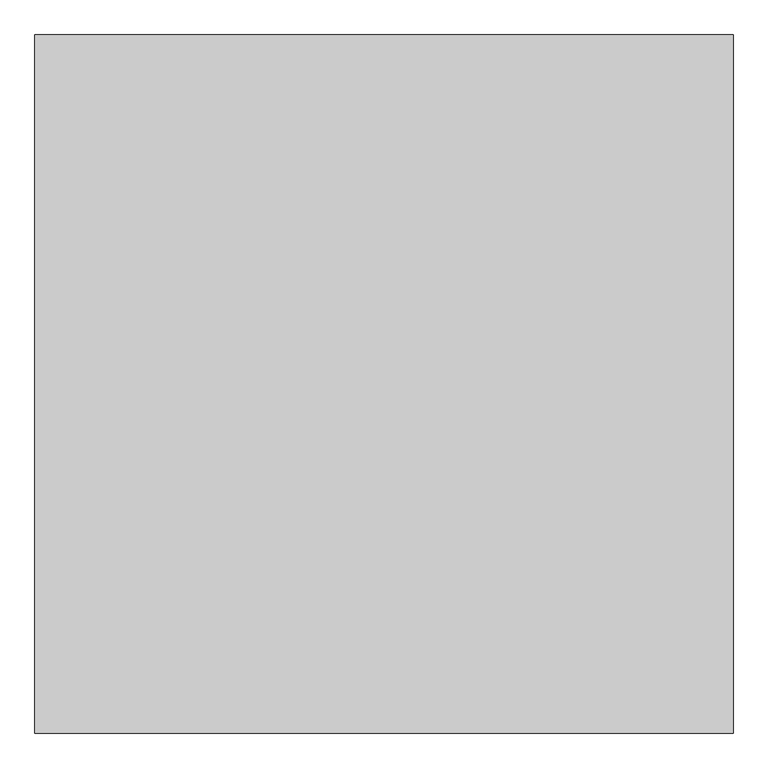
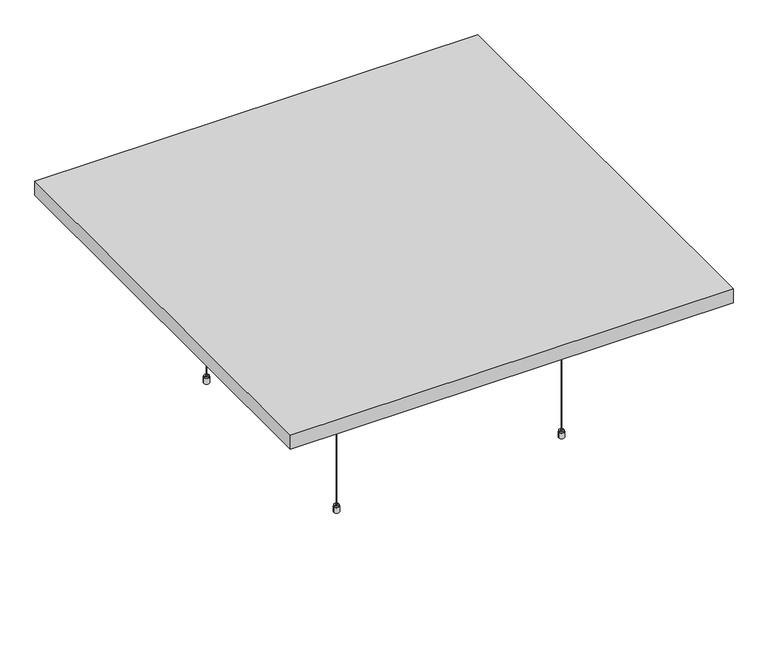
"""IFC4 building model written with IfcOpenShell, lengths in millimetres: proxy geometry, OWA Selecta : Selecta one."""

import ifcopenshell
import ifcopenshell.guid

model = None  # the IFC model being written
_history = None  # IfcOwnerHistory: only IFC2X3 demands one
_inside = {}  # id of a spatial element -> (the spatial element, [elements in it])
_under = {}  # id of a project, library or spatial element -> (it, [spatial elements below it])
_declared = {}  # id of a project -> (the project, [libraries it declares])
_typed = {}  # id of a type object -> (the type object, [elements of that type])
_made_of = {}  # id of a material, layer set ... -> (it, [elements and type objects made of it])


def new_model(schema):
    """Start an empty IFC model of exactly this schema.

    Asked for "IFC4X3", IfcOpenShell would pick the latest addendum, in which some entities
    have other attributes; the version numbers below select the first issue.
    IFC2X3 requires an IfcOwnerHistory on every rooted entity: one is made here for all.
    """
    global model, _history
    if schema == "IFC4X3":
        model = ifcopenshell.file(schema_version=(4, 3, 0, 0))
    else:
        model = ifcopenshell.file(schema=schema)
    _inside.clear()
    _under.clear()
    _declared.clear()
    _typed.clear()
    _made_of.clear()
    _history = None
    if model.schema == "IFC2X3":
        org = make("IfcOrganization", Name="unknown")
        user = make(
            "IfcPersonAndOrganization",
            ThePerson=make("IfcPerson", FamilyName="unknown"),
            TheOrganization=org,
        )
        app = make(
            "IfcApplication",
            ApplicationDeveloper=org,
            Version="unknown",
            ApplicationFullName="unknown",
            ApplicationIdentifier="unknown",
        )
        _history = make(
            "IfcOwnerHistory",
            OwningUser=user,
            OwningApplication=app,
            ChangeAction="ADDED",
            CreationDate=0,
        )
    return model


def make(cls, **values):
    """One entity of the class cls with the attributes given. An attribute that is None is left unset."""
    return model.create_entity(
        cls, **{name: value for name, value in values.items() if value is not None}
    )


def rooted(cls, **values):
    """An entity with a GlobalId (a new one), such as an element, a storey or a relation."""
    return make(cls, GlobalId=ifcopenshell.guid.new(), OwnerHistory=_history, **values)


def si_unit(unit_type, name, prefix=None):
    """IfcSIUnit, for example si_unit("LENGTHUNIT", "METRE", prefix="MILLI")."""
    return make("IfcSIUnit", UnitType=unit_type, Prefix=prefix, Name=name)


def assignment(units):
    """IfcUnitAssignment: the units of a project."""
    return None if units is None else make("IfcUnitAssignment", Units=units)


def point(xyz):
    """IfcCartesianPoint."""
    return None if xyz is None else make("IfcCartesianPoint", Coordinates=xyz)


def direction(xyz):
    """IfcDirection."""
    return None if xyz is None else make("IfcDirection", DirectionRatios=xyz)


def frame(location, z_axis=None, x_axis=None):
    """IfcAxis2Placement3D, a coordinate frame: its origin and axes. An axis left out is left unset."""
    return make(
        "IfcAxis2Placement3D",
        Location=point(location),
        Axis=direction(z_axis),
        RefDirection=direction(x_axis),
    )


def frame_2d(location, x_axis=None):
    """IfcAxis2Placement2D, a coordinate frame in the plane: its origin and x axis."""
    return make(
        "IfcAxis2Placement2D", Location=point(location), RefDirection=direction(x_axis)
    )


def origin():
    """The frame at (0, 0, 0) with its axes left unset."""
    return frame((0.0, 0.0, 0.0))


def place(relative_to, where):
    """IfcLocalPlacement: puts the frame where relative to a parent placement (None: the world)."""
    return make(
        "IfcLocalPlacement", PlacementRelTo=relative_to, RelativePlacement=where
    )


def context(
    kind, dimensions, precision=None, world=None, true_north=None, identifier=None
):
    """IfcGeometricRepresentationContext, for example the 3D "Model" context."""
    return make(
        "IfcGeometricRepresentationContext",
        ContextIdentifier=identifier,
        ContextType=kind,
        CoordinateSpaceDimension=dimensions,
        Precision=precision,
        WorldCoordinateSystem=world,
        TrueNorth=true_north,
    )


def project(units=None, contexts=None):
    """IfcProject with its units and contexts."""
    return rooted(
        "IfcProject",
        Name="project",
        RepresentationContexts=contexts,
        UnitsInContext=assignment(units),
    )


def spatial(cls, under=None, at=None, **own):
    """A site, building, storey or space (cls), placed at a placement, below another one or the project."""
    s = rooted(cls, ObjectPlacement=at, **own)
    if under is not None:
        _under.setdefault(under.id(), (under, []))[1].append(s)
    return s


def polyline(points):
    """IfcPolyline through the points."""
    return make("IfcPolyline", Points=[point(p) for p in points])


def circle_curve(where, radius):
    """IfcCircle in the frame where."""
    return make("IfcCircle", Position=where, Radius=radius)


def trimmed(basis, trim1, trim2, sense, master):
    """IfcTrimmedCurve: the piece of a basis curve between two trims."""
    return make(
        "IfcTrimmedCurve",
        BasisCurve=basis,
        Trim1=trim1,
        Trim2=trim2,
        SenseAgreement=sense,
        MasterRepresentation=master,
    )


def segment(curve, same_sense, transition):
    """IfcCompositeCurveSegment."""
    return make(
        "IfcCompositeCurveSegment",
        Transition=transition,
        SameSense=same_sense,
        ParentCurve=curve,
    )


def composite_curve(segments, self_intersect=None):
    """IfcCompositeCurve: segments joined end to end."""
    return make("IfcCompositeCurve", Segments=segments, SelfIntersect=self_intersect)


def outline(outer, holes=None, kind="AREA"):
    """IfcArbitraryClosedProfileDef: a profile drawn as a closed curve; with holes, ...WithVoids."""
    if holes is None:
        return make("IfcArbitraryClosedProfileDef", ProfileType=kind, OuterCurve=outer)
    return make(
        "IfcArbitraryProfileDefWithVoids",
        ProfileType=kind,
        OuterCurve=outer,
        InnerCurves=holes,
    )


def extrude(swept, where, along, depth):
    """IfcExtrudedAreaSolid: the profile swept, set in the frame where, extruded along a direction by depth."""
    return make(
        "IfcExtrudedAreaSolid",
        SweptArea=swept,
        Position=where,
        ExtrudedDirection=direction(along),
        Depth=depth,
    )


def shape(context_of_items, identifier, shape_type, items):
    """IfcShapeRepresentation: the items that make up one representation, for example the "Body"."""
    return make(
        "IfcShapeRepresentation",
        ContextOfItems=context_of_items,
        RepresentationIdentifier=identifier,
        RepresentationType=shape_type,
        Items=items,
    )


def source(mapping_origin, context_of_items, identifier, shape_type, items):
    """IfcRepresentationMap: a shape defined once, which mapped items show again and again."""
    return make(
        "IfcRepresentationMap",
        MappingOrigin=mapping_origin,
        MappedRepresentation=shape(context_of_items, identifier, shape_type, items),
    )


def transform(
    local_origin,
    x_axis=None,
    y_axis=None,
    z_axis=None,
    scale=None,
    scale2=None,
    scale3=None,
    uniform=True,
):
    """IfcCartesianTransformationOperator3D, or its non-uniform kind. x_axis, y_axis, z_axis: its Axis1, 2, 3."""
    if uniform:
        return make(
            "IfcCartesianTransformationOperator3D",
            Axis1=direction(x_axis),
            Axis2=direction(y_axis),
            LocalOrigin=point(local_origin),
            Scale=scale,
            Axis3=direction(z_axis),
        )
    return make(
        "IfcCartesianTransformationOperator3DnonUniform",
        Axis1=direction(x_axis),
        Axis2=direction(y_axis),
        LocalOrigin=point(local_origin),
        Scale=scale,
        Axis3=direction(z_axis),
        Scale2=scale2,
        Scale3=scale3,
    )


def mapped(mapping_source, mapping_target):
    """IfcMappedItem: shows the shape of a source again, moved by a transform."""
    return make(
        "IfcMappedItem", MappingSource=mapping_source, MappingTarget=mapping_target
    )


def made_of(thing, what):
    """Note that an element or type object is made of a material, layer set ...; save() writes the relation."""
    if what is not None:
        _made_of.setdefault(what.id(), (what, []))[1].append(thing)
    return thing


def element(
    cls,
    number,
    at=None,
    inside=None,
    cuts=None,
    type_object=None,
    material=None,
    context=None,
    identifier="Body",
    shape_type=None,
    held_by="IfcProductDefinitionShape",
    body=None,
    shapes=None,
    **own,
):
    """One element of the class cls, such as IfcWall. Its Tag is "e" and its number.

    at: its placement. inside: the storey or other place that contains it. cuts: it is an
    opening in that element (IfcRelVoidsElement). A single representation is given by context,
    identifier, shape_type and body (its items); several are given by shapes. held_by: the class
    of the entity that holds the representations. save() writes the other relations.
    """
    e = rooted(cls, Tag="e%d" % number, ObjectPlacement=at, **own)
    if body is not None:
        shapes = [shape(context, identifier, shape_type, body)]
    if shapes is not None:
        e.Representation = make(held_by, Representations=shapes)
    if inside is not None:
        _inside.setdefault(inside.id(), (inside, []))[1].append(e)
    if cuts is not None:
        rooted(
            "IfcRelVoidsElement", RelatingBuildingElement=cuts, RelatedOpeningElement=e
        )
    if type_object is not None:
        _typed.setdefault(type_object.id(), (type_object, []))[1].append(e)
    return made_of(e, material)


def aggregate(whole, parts):
    """IfcRelAggregates: a whole, such as a stair, and the parts it consists of."""
    return rooted("IfcRelAggregates", RelatingObject=whole, RelatedObjects=parts)


def save(model, path):
    """Write the relations noted so far, then the file.

    IfcRelAggregates (storeys below a building ...), IfcRelContainedInSpatialStructure (elements
    in a storey), IfcRelDefinesByType, IfcRelAssociatesMaterial and IfcRelDeclares: one each for
    every whole, place, type object, material and project.
    """
    for whole, parts in _under.values():
        aggregate(whole, parts)
    for where, things in _inside.values():
        rooted(
            "IfcRelContainedInSpatialStructure",
            RelatedElements=things,
            RelatingStructure=where,
        )
    for kind, things in _typed.values():
        rooted("IfcRelDefinesByType", RelatedObjects=things, RelatingType=kind)
    for what, things in _made_of.values():
        rooted("IfcRelAssociatesMaterial", RelatedObjects=things, RelatingMaterial=what)
    for by, libraries in _declared.values():
        rooted("IfcRelDeclares", RelatingContext=by, RelatedDefinitions=libraries)
    model.write(path)


def plane_surface(at):
    """IfcPlane: the flat surface through the origin of the frame at, square to its z axis."""
    return make("IfcPlane", Position=at)


def cylinder_surface(at, radius):
    """IfcCylindricalSurface: all points at the distance radius from the z axis of the frame at."""
    return make("IfcCylindricalSurface", Position=at, Radius=radius)


def revolved_surface(curve, axis_point, axis_direction):
    """IfcSurfaceOfRevolution: the curve turned about the line through axis_point along axis_direction."""
    return make(
        "IfcSurfaceOfRevolution",
        SweptCurve=make("IfcArbitraryOpenProfileDef", ProfileType="CURVE", Curve=curve),
        AxisPosition=make("IfcAxis1Placement", Location=point(axis_point), Axis=direction(axis_direction)),
    )


def advanced_brep(points, edges, surfaces, faces):
    """IfcAdvancedBrep: a solid bounded by faces that lie on surfaces and meet in shared edges.

    An edge is (start, end): straight between two places in points (the first is 0);
    or (start, end, curve); or (start, end, curve, False) where it runs against its curve.
    A face is (place in surfaces, loops), or (place, loops, False) where it looks against
    its surface's normal. A loop lists edges by number (the first is 1), with a minus sign
    where the edge is run from its end to its start. The first loop is the outer one.
    """
    corners = [point(p) for p in points]
    vertices = [make("IfcVertexPoint", VertexGeometry=c) for c in corners]
    made = []
    for start, end, *more in edges:
        made.append(
            make(
                "IfcEdgeCurve",
                EdgeStart=vertices[start],
                EdgeEnd=vertices[end],
                EdgeGeometry=more[0] if more else make("IfcPolyline", Points=[corners[start], corners[end]]),
                SameSense=more[1] if len(more) > 1 else True,
            )
        )
    hull = []
    for where, loops, *sense in faces:
        bounds = []
        for j, loop in enumerate(loops):
            ring = [make("IfcOrientedEdge", EdgeElement=made[abs(k) - 1], Orientation=k > 0) for k in loop]
            bounds.append(
                make(
                    "IfcFaceOuterBound" if j == 0 else "IfcFaceBound",
                    Bound=make("IfcEdgeLoop", EdgeList=ring),
                    Orientation=True,
                )
            )
        hull.append(make("IfcAdvancedFace", Bounds=bounds, FaceSurface=surfaces[where], SameSense=sense[0] if sense else True))
    return make("IfcAdvancedBrep", Outer=make("IfcClosedShell", CfsFaces=hull))


def specialty_equipment_9a51aed6(model_context):
    return source(origin(), model_context, "Body", "SolidModel", [
        advanced_brep(
        [(-738.5, 305.0, 0.0), (-730.7593825, 305.0, 0.0), (-746.2406175, 305.0, 0.0), (-730.7593825, 305.0, 15.0), (-746.2406175, 305.0, 15.0), (-731.6843825, 305.0, 15.0), (-745.3156175, 305.0, 15.0), (-731.6843825, 305.0, 19.0), (-745.3156175, 305.0, 19.0), (-736.4343825, 305.0, 19.0), (-740.5656175, 305.0, 19.0), (-736.4343825, 305.0, 22.546183), (-740.5656175, 305.0, 22.546183), (-738.5, 305.0, 22.546183)],
        [
            (0, 1),
            (1, 2, circle_curve(frame((-738.5, 305.0, 0.0), z_axis=(0.0, 0.0, -1.0), x_axis=(-1.0, 0.0, 0.0)), 7.7406175)),
            (2, 0),
            (2, 1, circle_curve(frame((-738.5, 305.0, 0.0), z_axis=(0.0, 0.0, -1.0), x_axis=(-1.0, 0.0, 0.0)), 7.7406175)),
            (1, 3),
            (3, 4, circle_curve(frame((-738.5, 305.0, 15.0), z_axis=(0.0, 0.0, -1.0), x_axis=(-1.0, 0.0, 0.0)), 7.7406175)),
            (4, 2),
            (4, 3, circle_curve(frame((-738.5, 305.0, 15.0), z_axis=(0.0, 0.0, -1.0), x_axis=(-1.0, 0.0, 0.0)), 7.7406175)),
            (3, 5),
            (5, 6, circle_curve(frame((-738.5, 305.0, 15.0), z_axis=(0.0, 0.0, -1.0), x_axis=(-1.0, 0.0, 0.0)), 6.8156175)),
            (6, 4),
            (6, 5, circle_curve(frame((-738.5, 305.0, 15.0), z_axis=(0.0, 0.0, -1.0), x_axis=(-1.0, 0.0, 0.0)), 6.8156175)),
            (5, 7),
            (7, 8, circle_curve(frame((-738.5, 305.0, 19.0), z_axis=(0.0, 0.0, -1.0), x_axis=(-1.0, 0.0, 0.0)), 6.8156175)),
            (8, 6),
            (8, 7, circle_curve(frame((-738.5, 305.0, 19.0), z_axis=(0.0, 0.0, -1.0), x_axis=(-1.0, 0.0, 0.0)), 6.8156175)),
            (7, 9),
            (9, 10, circle_curve(frame((-738.5, 305.0, 19.0), z_axis=(0.0, 0.0, -1.0), x_axis=(-1.0, 0.0, 0.0)), 2.0656175)),
            (10, 8),
            (10, 9, circle_curve(frame((-738.5, 305.0, 19.0), z_axis=(0.0, 0.0, -1.0), x_axis=(-1.0, 0.0, 0.0)), 2.0656175)),
            (9, 11),
            (11, 12, circle_curve(frame((-738.5, 305.0, 22.546183), z_axis=(0.0, 0.0, -1.0), x_axis=(-1.0, 0.0, 0.0)), 2.0656175)),
            (12, 10),
            (12, 11, circle_curve(frame((-738.5, 305.0, 22.546183), z_axis=(0.0, 0.0, -1.0), x_axis=(-1.0, 0.0, 0.0)), 2.0656175)),
            (11, 13),
            (13, 12),
        ],
        [
            plane_surface(frame((-738.5, 305.0, 0.0), z_axis=(0.0, 0.0, -1.0), x_axis=(-1.0, 0.0, 0.0))),
            cylinder_surface(frame((-738.5, 305.0, -10.0), z_axis=(0.0, 0.0, -1.0), x_axis=(-1.0, 0.0, 0.0)), 7.7406175),
            plane_surface(frame((-738.5, 305.0, 15.0), z_axis=(0.0, 0.0, 1.0), x_axis=(-1.0, 0.0, 0.0))),
            cylinder_surface(frame((-738.5, 305.0, -10.0), z_axis=(0.0, 0.0, -1.0), x_axis=(-1.0, 0.0, 0.0)), 6.8156175),
            plane_surface(frame((-738.5, 305.0, 19.0), z_axis=(0.0, 0.0, 1.0), x_axis=(-1.0, 0.0, 0.0))),
            cylinder_surface(frame((-738.5, 305.0, -10.0), z_axis=(0.0, 0.0, -1.0), x_axis=(-1.0, 0.0, 0.0)), 2.0656175),
            plane_surface(frame((-738.5, 305.0, 22.546183), z_axis=(0.0, 0.0, 1.0), x_axis=(-1.0, 0.0, 0.0))),
        ],
        [
            (0, [[1, 2, 3]]),
            (0, [[-3, 4, -1]]),
            (1, [[5, 6, 7, -2]]),
            (1, [[-7, 8, -5, -4]]),
            (2, [[9, 10, 11, -6]]),
            (2, [[-11, 12, -9, -8]]),
            (3, [[13, 14, 15, -10]]),
            (3, [[-15, 16, -13, -12]]),
            (4, [[17, 18, 19, -14]]),
            (4, [[-19, 20, -17, -16]]),
            (5, [[21, 22, 23, -18]]),
            (5, [[-23, 24, -21, -20]]),
            (6, [[25, 26, -22]]),
            (6, [[-26, -25, -24]]),
        ],
    ),
        advanced_brep(
        [(-736.2615389, 305.0, 428.8211737), (-736.1339453, 305.0, 432.8711737), (-740.8660547, 305.0, 432.8711737), (-740.7384611, 305.0, 428.8211737), (-733.6339453, 305.0, 432.8711737), (-743.3660547, 305.0, 432.8711737), (-733.6339453, 305.0, 458.1211737), (-743.3660547, 305.0, 458.1211737), (-722.6339453, 305.0, 458.1211737), (-754.3660547, 305.0, 458.1211737), (-722.6339453, 305.0, 460.0), (-754.3660547, 305.0, 460.0), (-738.5, 305.0, 460.0), (-738.5, 305.0, 428.8211737)],
        [
            (0, 1),
            (1, 2, circle_curve(frame((-738.5, 305.0, 432.8711737), z_axis=(0.0, 0.0, -1.0), x_axis=(-1.0, 0.0, 0.0)), 2.3660547)),
            (2, 3),
            (3, 0, circle_curve(frame((-738.5, 305.0, 428.8211737), z_axis=(0.0, 0.0, 1.0), x_axis=(-1.0, 0.0, 0.0)), 2.2384611)),
            (2, 1, circle_curve(frame((-738.5, 305.0, 432.8711737), z_axis=(0.0, 0.0, -1.0), x_axis=(-1.0, 0.0, 0.0)), 2.3660547)),
            (0, 3, circle_curve(frame((-738.5, 305.0, 428.8211737), z_axis=(0.0, 0.0, 1.0), x_axis=(-1.0, 0.0, 0.0)), 2.2384611)),
            (1, 4),
            (4, 5, circle_curve(frame((-738.5, 305.0, 432.8711737), z_axis=(0.0, 0.0, -1.0), x_axis=(-1.0, 0.0, 0.0)), 4.8660547)),
            (5, 2),
            (5, 4, circle_curve(frame((-738.5, 305.0, 432.8711737), z_axis=(0.0, 0.0, -1.0), x_axis=(-1.0, 0.0, 0.0)), 4.8660547)),
            (4, 6),
            (6, 7, circle_curve(frame((-738.5, 305.0, 458.1211737), z_axis=(0.0, 0.0, -1.0), x_axis=(-1.0, 0.0, 0.0)), 4.8660547)),
            (7, 5),
            (7, 6, circle_curve(frame((-738.5, 305.0, 458.1211737), z_axis=(0.0, 0.0, -1.0), x_axis=(-1.0, 0.0, 0.0)), 4.8660547)),
            (6, 8),
            (8, 9, circle_curve(frame((-738.5, 305.0, 458.1211737), z_axis=(0.0, 0.0, -1.0), x_axis=(-1.0, 0.0, 0.0)), 15.8660547)),
            (9, 7),
            (9, 8, circle_curve(frame((-738.5, 305.0, 458.1211737), z_axis=(0.0, 0.0, -1.0), x_axis=(-1.0, 0.0, 0.0)), 15.8660547)),
            (8, 10),
            (10, 11, circle_curve(frame((-738.5, 305.0, 460.0), z_axis=(0.0, 0.0, -1.0), x_axis=(-1.0, 0.0, 0.0)), 15.8660547)),
            (11, 9),
            (11, 10, circle_curve(frame((-738.5, 305.0, 460.0), z_axis=(0.0, 0.0, -1.0), x_axis=(-1.0, 0.0, 0.0)), 15.8660547)),
            (10, 12),
            (12, 11),
            (13, 0),
            (3, 13),
        ],
        [
            revolved_surface(polyline([(-740.8660547, 305.0, 432.8711737), (-740.7384611, 305.0, 428.8211737)]), (-738.5, 305.0, 461.8401096), (0.0, 0.0, -1.0)),
            plane_surface(frame((-738.5, 305.0, 432.8711737), z_axis=(0.0, 0.0, -1.0), x_axis=(-1.0, 0.0, 0.0))),
            cylinder_surface(frame((-738.5, 305.0, 461.8401096), z_axis=(0.0, 0.0, -1.0), x_axis=(-1.0, 0.0, 0.0)), 4.8660547),
            plane_surface(frame((-738.5, 305.0, 458.1211737), z_axis=(0.0, 0.0, -1.0), x_axis=(-1.0, 0.0, 0.0))),
            cylinder_surface(frame((-738.5, 305.0, 461.8401096), z_axis=(0.0, 0.0, -1.0), x_axis=(-1.0, 0.0, 0.0)), 15.8660547),
            plane_surface(frame((-738.5, 305.0, 460.0), z_axis=(0.0, 0.0, 1.0), x_axis=(-1.0, 0.0, 0.0))),
            plane_surface(frame((-738.5, 305.0, 428.8211737), z_axis=(0.0, 0.0, -1.0), x_axis=(-1.0, 0.0, 0.0))),
        ],
        [
            (0, [[1, 2, 3, 4]]),
            (0, [[-3, 5, -1, 6]]),
            (1, [[7, 8, 9, -2]]),
            (1, [[-9, 10, -7, -5]]),
            (2, [[11, 12, 13, -8]]),
            (2, [[-13, 14, -11, -10]]),
            (3, [[15, 16, 17, -12]]),
            (3, [[-17, 18, -15, -14]]),
            (4, [[19, 20, 21, -16]]),
            (4, [[-21, 22, -19, -18]]),
            (5, [[23, 24, -20]]),
            (5, [[-24, -23, -22]]),
            (6, [[25, -4, 26]]),
            (6, [[-26, -6, -25]]),
        ],
    ),
        extrude(outline(composite_curve([segment(trimmed(circle_curve(frame_2d((-738.5, 305.0)), 1.0), [point((-739.5, 305.0))], [point((-737.5, 305.0))], False, "CARTESIAN"), True, "CONTINUOUS"), segment(trimmed(circle_curve(frame_2d((-738.5, 305.0)), 1.0), [point((-737.5, 305.0))], [point((-739.5, 305.0))], False, "CARTESIAN"), True, "CONTINUOUS")], self_intersect=False)), frame((0.0, 0.0, 22.546183), z_axis=(0.0, 0.0, 1.0), x_axis=(1.0, 0.0, 0.0)), (0.0, 0.0, 1.0), 406.2749908),
        advanced_brep(
        [(-128.5, 305.0, 0.0), (-120.7593825, 305.0, 0.0), (-136.2406175, 305.0, 0.0), (-120.7593825, 305.0, 15.0), (-136.2406175, 305.0, 15.0), (-121.6843825, 305.0, 15.0), (-135.3156175, 305.0, 15.0), (-121.6843825, 305.0, 19.0), (-135.3156175, 305.0, 19.0), (-126.4343825, 305.0, 19.0), (-130.5656175, 305.0, 19.0), (-126.4343825, 305.0, 22.546183), (-130.5656175, 305.0, 22.546183), (-128.5, 305.0, 22.546183)],
        [
            (0, 1),
            (1, 2, circle_curve(frame((-128.5, 305.0, 0.0), z_axis=(0.0, 0.0, -1.0), x_axis=(1.0, 0.0, 0.0)), 7.7406175)),
            (2, 0),
            (2, 1, circle_curve(frame((-128.5, 305.0, 0.0), z_axis=(0.0, 0.0, -1.0), x_axis=(1.0, 0.0, 0.0)), 7.7406175)),
            (1, 3),
            (3, 4, circle_curve(frame((-128.5, 305.0, 15.0), z_axis=(0.0, 0.0, -1.0), x_axis=(1.0, 0.0, 0.0)), 7.7406175)),
            (4, 2),
            (4, 3, circle_curve(frame((-128.5, 305.0, 15.0), z_axis=(0.0, 0.0, -1.0), x_axis=(1.0, 0.0, 0.0)), 7.7406175)),
            (3, 5),
            (5, 6, circle_curve(frame((-128.5, 305.0, 15.0), z_axis=(0.0, 0.0, -1.0), x_axis=(1.0, 0.0, 0.0)), 6.8156175)),
            (6, 4),
            (6, 5, circle_curve(frame((-128.5, 305.0, 15.0), z_axis=(0.0, 0.0, -1.0), x_axis=(1.0, 0.0, 0.0)), 6.8156175)),
            (5, 7),
            (7, 8, circle_curve(frame((-128.5, 305.0, 19.0), z_axis=(0.0, 0.0, -1.0), x_axis=(1.0, 0.0, 0.0)), 6.8156175)),
            (8, 6),
            (8, 7, circle_curve(frame((-128.5, 305.0, 19.0), z_axis=(0.0, 0.0, -1.0), x_axis=(1.0, 0.0, 0.0)), 6.8156175)),
            (7, 9),
            (9, 10, circle_curve(frame((-128.5, 305.0, 19.0), z_axis=(0.0, 0.0, -1.0), x_axis=(1.0, 0.0, 0.0)), 2.0656175)),
            (10, 8),
            (10, 9, circle_curve(frame((-128.5, 305.0, 19.0), z_axis=(0.0, 0.0, -1.0), x_axis=(1.0, 0.0, 0.0)), 2.0656175)),
            (9, 11),
            (11, 12, circle_curve(frame((-128.5, 305.0, 22.546183), z_axis=(0.0, 0.0, -1.0), x_axis=(1.0, 0.0, 0.0)), 2.0656175)),
            (12, 10),
            (12, 11, circle_curve(frame((-128.5, 305.0, 22.546183), z_axis=(0.0, 0.0, -1.0), x_axis=(1.0, 0.0, 0.0)), 2.0656175)),
            (11, 13),
            (13, 12),
        ],
        [
            plane_surface(frame((-128.5, 305.0, 0.0), z_axis=(0.0, 0.0, -1.0), x_axis=(1.0, 0.0, 0.0))),
            cylinder_surface(frame((-128.5, 305.0, -10.0), z_axis=(0.0, 0.0, -1.0), x_axis=(1.0, 0.0, 0.0)), 7.7406175),
            plane_surface(frame((-128.5, 305.0, 15.0), z_axis=(0.0, 0.0, 1.0), x_axis=(1.0, 0.0, 0.0))),
            cylinder_surface(frame((-128.5, 305.0, -10.0), z_axis=(0.0, 0.0, -1.0), x_axis=(1.0, 0.0, 0.0)), 6.8156175),
            plane_surface(frame((-128.5, 305.0, 19.0), z_axis=(0.0, 0.0, 1.0), x_axis=(1.0, 0.0, 0.0))),
            cylinder_surface(frame((-128.5, 305.0, -10.0), z_axis=(0.0, 0.0, -1.0), x_axis=(1.0, 0.0, 0.0)), 2.0656175),
            plane_surface(frame((-128.5, 305.0, 22.546183), z_axis=(0.0, 0.0, 1.0), x_axis=(1.0, 0.0, 0.0))),
        ],
        [
            (0, [[1, 2, 3]]),
            (0, [[-3, 4, -1]]),
            (1, [[-2, 5, 6, 7]]),
            (1, [[-4, -7, 8, -5]]),
            (2, [[-6, 9, 10, 11]]),
            (2, [[-8, -11, 12, -9]]),
            (3, [[-10, 13, 14, 15]]),
            (3, [[-12, -15, 16, -13]]),
            (4, [[-14, 17, 18, 19]]),
            (4, [[-16, -19, 20, -17]]),
            (5, [[-18, 21, 22, 23]]),
            (5, [[-20, -23, 24, -21]]),
            (6, [[-22, 25, 26]]),
            (6, [[-24, -26, -25]]),
        ],
    ),
        advanced_brep(
        [(-130.7384611, 305.0, 428.8211737), (-126.2615389, 305.0, 428.8211737), (-126.1339453, 305.0, 432.8711737), (-130.8660547, 305.0, 432.8711737), (-123.6339453, 305.0, 432.8711737), (-133.3660547, 305.0, 432.8711737), (-123.6339453, 305.0, 458.1211737), (-133.3660547, 305.0, 458.1211737), (-112.6339453, 305.0, 458.1211737), (-144.3660547, 305.0, 458.1211737), (-112.6339453, 305.0, 460.0), (-144.3660547, 305.0, 460.0), (-128.5, 305.0, 460.0), (-128.5, 305.0, 428.8211737)],
        [
            (0, 1, circle_curve(frame((-128.5, 305.0, 428.8211737), z_axis=(0.0, 0.0, 1.0), x_axis=(1.0, 0.0, 0.0)), 2.2384611)),
            (1, 2),
            (2, 3, circle_curve(frame((-128.5, 305.0, 432.8711737), z_axis=(0.0, 0.0, -1.0), x_axis=(1.0, 0.0, 0.0)), 2.3660547)),
            (3, 0),
            (1, 0, circle_curve(frame((-128.5, 305.0, 428.8211737), z_axis=(0.0, 0.0, 1.0), x_axis=(1.0, 0.0, 0.0)), 2.2384611)),
            (3, 2, circle_curve(frame((-128.5, 305.0, 432.8711737), z_axis=(0.0, 0.0, -1.0), x_axis=(1.0, 0.0, 0.0)), 2.3660547)),
            (2, 4),
            (4, 5, circle_curve(frame((-128.5, 305.0, 432.8711737), z_axis=(0.0, 0.0, -1.0), x_axis=(1.0, 0.0, 0.0)), 4.8660547)),
            (5, 3),
            (5, 4, circle_curve(frame((-128.5, 305.0, 432.8711737), z_axis=(0.0, 0.0, -1.0), x_axis=(1.0, 0.0, 0.0)), 4.8660547)),
            (4, 6),
            (6, 7, circle_curve(frame((-128.5, 305.0, 458.1211737), z_axis=(0.0, 0.0, -1.0), x_axis=(1.0, 0.0, 0.0)), 4.8660547)),
            (7, 5),
            (7, 6, circle_curve(frame((-128.5, 305.0, 458.1211737), z_axis=(0.0, 0.0, -1.0), x_axis=(1.0, 0.0, 0.0)), 4.8660547)),
            (6, 8),
            (8, 9, circle_curve(frame((-128.5, 305.0, 458.1211737), z_axis=(0.0, 0.0, -1.0), x_axis=(1.0, 0.0, 0.0)), 15.8660547)),
            (9, 7),
            (9, 8, circle_curve(frame((-128.5, 305.0, 458.1211737), z_axis=(0.0, 0.0, -1.0), x_axis=(1.0, 0.0, 0.0)), 15.8660547)),
            (8, 10),
            (10, 11, circle_curve(frame((-128.5, 305.0, 460.0), z_axis=(0.0, 0.0, -1.0), x_axis=(1.0, 0.0, 0.0)), 15.8660547)),
            (11, 9),
            (11, 10, circle_curve(frame((-128.5, 305.0, 460.0), z_axis=(0.0, 0.0, -1.0), x_axis=(1.0, 0.0, 0.0)), 15.8660547)),
            (10, 12),
            (12, 11),
            (13, 1),
            (0, 13),
        ],
        [
            revolved_surface(polyline([(-126.1339453, 305.0, 432.8711737), (-126.2615389, 305.0, 428.8211737)]), (-128.5, 305.0, 461.8401096), (0.0, 0.0, -1.0)),
            plane_surface(frame((-128.5, 305.0, 432.8711737), z_axis=(0.0, 0.0, -1.0), x_axis=(1.0, 0.0, 0.0))),
            cylinder_surface(frame((-128.5, 305.0, 461.8401096), z_axis=(0.0, 0.0, -1.0), x_axis=(1.0, 0.0, 0.0)), 4.8660547),
            plane_surface(frame((-128.5, 305.0, 458.1211737), z_axis=(0.0, 0.0, -1.0), x_axis=(1.0, 0.0, 0.0))),
            cylinder_surface(frame((-128.5, 305.0, 461.8401096), z_axis=(0.0, 0.0, -1.0), x_axis=(1.0, 0.0, 0.0)), 15.8660547),
            plane_surface(frame((-128.5, 305.0, 460.0), z_axis=(0.0, 0.0, 1.0), x_axis=(1.0, 0.0, 0.0))),
            plane_surface(frame((-128.5, 305.0, 428.8211737), z_axis=(0.0, 0.0, -1.0), x_axis=(1.0, 0.0, 0.0))),
        ],
        [
            (0, [[1, 2, 3, 4]]),
            (0, [[5, -4, 6, -2]]),
            (1, [[-3, 7, 8, 9]]),
            (1, [[-6, -9, 10, -7]]),
            (2, [[-8, 11, 12, 13]]),
            (2, [[-10, -13, 14, -11]]),
            (3, [[-12, 15, 16, 17]]),
            (3, [[-14, -17, 18, -15]]),
            (4, [[-16, 19, 20, 21]]),
            (4, [[-18, -21, 22, -19]]),
            (5, [[-20, 23, 24]]),
            (5, [[-22, -24, -23]]),
            (6, [[25, -1, 26]]),
            (6, [[-26, -5, -25]]),
        ],
    ),
        extrude(outline(composite_curve([segment(trimmed(circle_curve(frame_2d((-128.5, 305.0)), 1.0), [point((-127.5, 305.0))], [point((-129.5, 305.0))], False, "CARTESIAN"), True, "CONTINUOUS"), segment(trimmed(circle_curve(frame_2d((-128.5, 305.0)), 1.0), [point((-129.5, 305.0))], [point((-127.5, 305.0))], False, "CARTESIAN"), True, "CONTINUOUS")], self_intersect=False)), frame((0.0, 0.0, 22.546183), z_axis=(0.0, 0.0, 1.0), x_axis=(1.0, 0.0, 0.0)), (0.0, 0.0, 1.0), 406.2749908),
        advanced_brep(
        [(-128.5, -305.0, 0.0), (-136.2406175, -305.0, 0.0), (-120.7593825, -305.0, 0.0), (-136.2406175, -305.0, 15.0), (-120.7593825, -305.0, 15.0), (-135.3156175, -305.0, 15.0), (-121.6843825, -305.0, 15.0), (-135.3156175, -305.0, 19.0), (-121.6843825, -305.0, 19.0), (-130.5656175, -305.0, 19.0), (-126.4343825, -305.0, 19.0), (-130.5656175, -305.0, 22.546183), (-126.4343825, -305.0, 22.546183), (-128.5, -305.0, 22.546183)],
        [
            (0, 1),
            (1, 2, circle_curve(frame((-128.5, -305.0, 0.0), z_axis=(0.0, 0.0, -1.0), x_axis=(1.0, 0.0, 0.0)), 7.7406175)),
            (2, 0),
            (2, 1, circle_curve(frame((-128.5, -305.0, 0.0), z_axis=(0.0, 0.0, -1.0), x_axis=(1.0, 0.0, 0.0)), 7.7406175)),
            (1, 3),
            (3, 4, circle_curve(frame((-128.5, -305.0, 15.0), z_axis=(0.0, 0.0, -1.0), x_axis=(1.0, 0.0, 0.0)), 7.7406175)),
            (4, 2),
            (4, 3, circle_curve(frame((-128.5, -305.0, 15.0), z_axis=(0.0, 0.0, -1.0), x_axis=(1.0, 0.0, 0.0)), 7.7406175)),
            (3, 5),
            (5, 6, circle_curve(frame((-128.5, -305.0, 15.0), z_axis=(0.0, 0.0, -1.0), x_axis=(1.0, 0.0, 0.0)), 6.8156175)),
            (6, 4),
            (6, 5, circle_curve(frame((-128.5, -305.0, 15.0), z_axis=(0.0, 0.0, -1.0), x_axis=(1.0, 0.0, 0.0)), 6.8156175)),
            (5, 7),
            (7, 8, circle_curve(frame((-128.5, -305.0, 19.0), z_axis=(0.0, 0.0, -1.0), x_axis=(1.0, 0.0, 0.0)), 6.8156175)),
            (8, 6),
            (8, 7, circle_curve(frame((-128.5, -305.0, 19.0), z_axis=(0.0, 0.0, -1.0), x_axis=(1.0, 0.0, 0.0)), 6.8156175)),
            (7, 9),
            (9, 10, circle_curve(frame((-128.5, -305.0, 19.0), z_axis=(0.0, 0.0, -1.0), x_axis=(1.0, 0.0, 0.0)), 2.0656175)),
            (10, 8),
            (10, 9, circle_curve(frame((-128.5, -305.0, 19.0), z_axis=(0.0, 0.0, -1.0), x_axis=(1.0, 0.0, 0.0)), 2.0656175)),
            (9, 11),
            (11, 12, circle_curve(frame((-128.5, -305.0, 22.546183), z_axis=(0.0, 0.0, -1.0), x_axis=(1.0, 0.0, 0.0)), 2.0656175)),
            (12, 10),
            (12, 11, circle_curve(frame((-128.5, -305.0, 22.546183), z_axis=(0.0, 0.0, -1.0), x_axis=(1.0, 0.0, 0.0)), 2.0656175)),
            (11, 13),
            (13, 12),
        ],
        [
            plane_surface(frame((-128.5, -305.0, 0.0), z_axis=(0.0, 0.0, -1.0), x_axis=(1.0, 0.0, 0.0))),
            cylinder_surface(frame((-128.5, -305.0, -10.0), z_axis=(0.0, 0.0, -1.0), x_axis=(1.0, 0.0, 0.0)), 7.7406175),
            plane_surface(frame((-128.5, -305.0, 15.0), z_axis=(0.0, 0.0, 1.0), x_axis=(1.0, 0.0, 0.0))),
            cylinder_surface(frame((-128.5, -305.0, -10.0), z_axis=(0.0, 0.0, -1.0), x_axis=(1.0, 0.0, 0.0)), 6.8156175),
            plane_surface(frame((-128.5, -305.0, 19.0), z_axis=(0.0, 0.0, 1.0), x_axis=(1.0, 0.0, 0.0))),
            cylinder_surface(frame((-128.5, -305.0, -10.0), z_axis=(0.0, 0.0, -1.0), x_axis=(1.0, 0.0, 0.0)), 2.0656175),
            plane_surface(frame((-128.5, -305.0, 22.546183), z_axis=(0.0, 0.0, 1.0), x_axis=(1.0, 0.0, 0.0))),
        ],
        [
            (0, [[1, 2, 3]]),
            (0, [[-3, 4, -1]]),
            (1, [[5, 6, 7, -2]]),
            (1, [[-7, 8, -5, -4]]),
            (2, [[9, 10, 11, -6]]),
            (2, [[-11, 12, -9, -8]]),
            (3, [[13, 14, 15, -10]]),
            (3, [[-15, 16, -13, -12]]),
            (4, [[17, 18, 19, -14]]),
            (4, [[-19, 20, -17, -16]]),
            (5, [[21, 22, 23, -18]]),
            (5, [[-23, 24, -21, -20]]),
            (6, [[25, 26, -22]]),
            (6, [[-26, -25, -24]]),
        ],
    ),
        advanced_brep(
        [(-130.7384611, -305.0, 428.8211737), (-130.8660547, -305.0, 432.8711737), (-126.1339453, -305.0, 432.8711737), (-126.2615389, -305.0, 428.8211737), (-133.3660547, -305.0, 432.8711737), (-123.6339453, -305.0, 432.8711737), (-133.3660547, -305.0, 458.1211737), (-123.6339453, -305.0, 458.1211737), (-144.3660547, -305.0, 458.1211737), (-112.6339453, -305.0, 458.1211737), (-144.3660547, -305.0, 460.0), (-112.6339453, -305.0, 460.0), (-128.5, -305.0, 460.0), (-128.5, -305.0, 428.8211737)],
        [
            (0, 1),
            (1, 2, circle_curve(frame((-128.5, -305.0, 432.8711737), z_axis=(0.0, 0.0, -1.0), x_axis=(1.0, 0.0, 0.0)), 2.3660547)),
            (2, 3),
            (3, 0, circle_curve(frame((-128.5, -305.0, 428.8211737), z_axis=(0.0, 0.0, 1.0), x_axis=(1.0, 0.0, 0.0)), 2.2384611)),
            (2, 1, circle_curve(frame((-128.5, -305.0, 432.8711737), z_axis=(0.0, 0.0, -1.0), x_axis=(1.0, 0.0, 0.0)), 2.3660547)),
            (0, 3, circle_curve(frame((-128.5, -305.0, 428.8211737), z_axis=(0.0, 0.0, 1.0), x_axis=(1.0, 0.0, 0.0)), 2.2384611)),
            (1, 4),
            (4, 5, circle_curve(frame((-128.5, -305.0, 432.8711737), z_axis=(0.0, 0.0, -1.0), x_axis=(1.0, 0.0, 0.0)), 4.8660547)),
            (5, 2),
            (5, 4, circle_curve(frame((-128.5, -305.0, 432.8711737), z_axis=(0.0, 0.0, -1.0), x_axis=(1.0, 0.0, 0.0)), 4.8660547)),
            (4, 6),
            (6, 7, circle_curve(frame((-128.5, -305.0, 458.1211737), z_axis=(0.0, 0.0, -1.0), x_axis=(1.0, 0.0, 0.0)), 4.8660547)),
            (7, 5),
            (7, 6, circle_curve(frame((-128.5, -305.0, 458.1211737), z_axis=(0.0, 0.0, -1.0), x_axis=(1.0, 0.0, 0.0)), 4.8660547)),
            (6, 8),
            (8, 9, circle_curve(frame((-128.5, -305.0, 458.1211737), z_axis=(0.0, 0.0, -1.0), x_axis=(1.0, 0.0, 0.0)), 15.8660547)),
            (9, 7),
            (9, 8, circle_curve(frame((-128.5, -305.0, 458.1211737), z_axis=(0.0, 0.0, -1.0), x_axis=(1.0, 0.0, 0.0)), 15.8660547)),
            (8, 10),
            (10, 11, circle_curve(frame((-128.5, -305.0, 460.0), z_axis=(0.0, 0.0, -1.0), x_axis=(1.0, 0.0, 0.0)), 15.8660547)),
            (11, 9),
            (11, 10, circle_curve(frame((-128.5, -305.0, 460.0), z_axis=(0.0, 0.0, -1.0), x_axis=(1.0, 0.0, 0.0)), 15.8660547)),
            (10, 12),
            (12, 11),
            (13, 0),
            (3, 13),
        ],
        [
            revolved_surface(polyline([(-126.1339453, -305.0, 432.8711737), (-126.2615389, -305.0, 428.8211737)]), (-128.5, -305.0, 461.8401096), (0.0, 0.0, -1.0)),
            plane_surface(frame((-128.5, -305.0, 432.8711737), z_axis=(0.0, 0.0, -1.0), x_axis=(1.0, 0.0, 0.0))),
            cylinder_surface(frame((-128.5, -305.0, 461.8401096), z_axis=(0.0, 0.0, -1.0), x_axis=(1.0, 0.0, 0.0)), 4.8660547),
            plane_surface(frame((-128.5, -305.0, 458.1211737), z_axis=(0.0, 0.0, -1.0), x_axis=(1.0, 0.0, 0.0))),
            cylinder_surface(frame((-128.5, -305.0, 461.8401096), z_axis=(0.0, 0.0, -1.0), x_axis=(1.0, 0.0, 0.0)), 15.8660547),
            plane_surface(frame((-128.5, -305.0, 460.0), z_axis=(0.0, 0.0, 1.0), x_axis=(1.0, 0.0, 0.0))),
            plane_surface(frame((-128.5, -305.0, 428.8211737), z_axis=(0.0, 0.0, -1.0), x_axis=(1.0, 0.0, 0.0))),
        ],
        [
            (0, [[1, 2, 3, 4]]),
            (0, [[-3, 5, -1, 6]]),
            (1, [[7, 8, 9, -2]]),
            (1, [[-9, 10, -7, -5]]),
            (2, [[11, 12, 13, -8]]),
            (2, [[-13, 14, -11, -10]]),
            (3, [[15, 16, 17, -12]]),
            (3, [[-17, 18, -15, -14]]),
            (4, [[19, 20, 21, -16]]),
            (4, [[-21, 22, -19, -18]]),
            (5, [[23, 24, -20]]),
            (5, [[-24, -23, -22]]),
            (6, [[25, -4, 26]]),
            (6, [[-26, -6, -25]]),
        ],
    ),
        extrude(outline(composite_curve([segment(trimmed(circle_curve(frame_2d((-128.5, -305.0)), 1.0), [point((-127.5, -305.0))], [point((-129.5, -305.0))], False, "CARTESIAN"), True, "CONTINUOUS"), segment(trimmed(circle_curve(frame_2d((-128.5, -305.0)), 1.0), [point((-129.5, -305.0))], [point((-127.5, -305.0))], False, "CARTESIAN"), True, "CONTINUOUS")], self_intersect=False)), frame((0.0, 0.0, 22.546183), z_axis=(0.0, 0.0, 1.0), x_axis=(1.0, 0.0, 0.0)), (0.0, 0.0, 1.0), 406.2749908),
        advanced_brep(
        [(-738.5, -305.0, 0.0), (-746.2406175, -305.0, 0.0), (-730.7593825, -305.0, 0.0), (-746.2406175, -305.0, 15.0), (-730.7593825, -305.0, 15.0), (-745.3156175, -305.0, 15.0), (-731.6843825, -305.0, 15.0), (-745.3156175, -305.0, 19.0), (-731.6843825, -305.0, 19.0), (-740.5656175, -305.0, 19.0), (-736.4343825, -305.0, 19.0), (-740.5656175, -305.0, 22.546183), (-736.4343825, -305.0, 22.546183), (-738.5, -305.0, 22.546183)],
        [
            (0, 1),
            (1, 2, circle_curve(frame((-738.5, -305.0, 0.0), z_axis=(0.0, 0.0, -1.0), x_axis=(-1.0, 0.0, 0.0)), 7.7406175)),
            (2, 0),
            (2, 1, circle_curve(frame((-738.5, -305.0, 0.0), z_axis=(0.0, 0.0, -1.0), x_axis=(-1.0, 0.0, 0.0)), 7.7406175)),
            (1, 3),
            (3, 4, circle_curve(frame((-738.5, -305.0, 15.0), z_axis=(0.0, 0.0, -1.0), x_axis=(-1.0, 0.0, 0.0)), 7.7406175)),
            (4, 2),
            (4, 3, circle_curve(frame((-738.5, -305.0, 15.0), z_axis=(0.0, 0.0, -1.0), x_axis=(-1.0, 0.0, 0.0)), 7.7406175)),
            (3, 5),
            (5, 6, circle_curve(frame((-738.5, -305.0, 15.0), z_axis=(0.0, 0.0, -1.0), x_axis=(-1.0, 0.0, 0.0)), 6.8156175)),
            (6, 4),
            (6, 5, circle_curve(frame((-738.5, -305.0, 15.0), z_axis=(0.0, 0.0, -1.0), x_axis=(-1.0, 0.0, 0.0)), 6.8156175)),
            (5, 7),
            (7, 8, circle_curve(frame((-738.5, -305.0, 19.0), z_axis=(0.0, 0.0, -1.0), x_axis=(-1.0, 0.0, 0.0)), 6.8156175)),
            (8, 6),
            (8, 7, circle_curve(frame((-738.5, -305.0, 19.0), z_axis=(0.0, 0.0, -1.0), x_axis=(-1.0, 0.0, 0.0)), 6.8156175)),
            (7, 9),
            (9, 10, circle_curve(frame((-738.5, -305.0, 19.0), z_axis=(0.0, 0.0, -1.0), x_axis=(-1.0, 0.0, 0.0)), 2.0656175)),
            (10, 8),
            (10, 9, circle_curve(frame((-738.5, -305.0, 19.0), z_axis=(0.0, 0.0, -1.0), x_axis=(-1.0, 0.0, 0.0)), 2.0656175)),
            (9, 11),
            (11, 12, circle_curve(frame((-738.5, -305.0, 22.546183), z_axis=(0.0, 0.0, -1.0), x_axis=(-1.0, 0.0, 0.0)), 2.0656175)),
            (12, 10),
            (12, 11, circle_curve(frame((-738.5, -305.0, 22.546183), z_axis=(0.0, 0.0, -1.0), x_axis=(-1.0, 0.0, 0.0)), 2.0656175)),
            (11, 13),
            (13, 12),
        ],
        [
            plane_surface(frame((-738.5, -305.0, 0.0), z_axis=(0.0, 0.0, -1.0), x_axis=(-1.0, 0.0, 0.0))),
            cylinder_surface(frame((-738.5, -305.0, -10.0), z_axis=(0.0, 0.0, -1.0), x_axis=(-1.0, 0.0, 0.0)), 7.7406175),
            plane_surface(frame((-738.5, -305.0, 15.0), z_axis=(0.0, 0.0, 1.0), x_axis=(-1.0, 0.0, 0.0))),
            cylinder_surface(frame((-738.5, -305.0, -10.0), z_axis=(0.0, 0.0, -1.0), x_axis=(-1.0, 0.0, 0.0)), 6.8156175),
            plane_surface(frame((-738.5, -305.0, 19.0), z_axis=(0.0, 0.0, 1.0), x_axis=(-1.0, 0.0, 0.0))),
            cylinder_surface(frame((-738.5, -305.0, -10.0), z_axis=(0.0, 0.0, -1.0), x_axis=(-1.0, 0.0, 0.0)), 2.0656175),
            plane_surface(frame((-738.5, -305.0, 22.546183), z_axis=(0.0, 0.0, 1.0), x_axis=(-1.0, 0.0, 0.0))),
        ],
        [
            (0, [[1, 2, 3]]),
            (0, [[-3, 4, -1]]),
            (1, [[-2, 5, 6, 7]]),
            (1, [[-4, -7, 8, -5]]),
            (2, [[-6, 9, 10, 11]]),
            (2, [[-8, -11, 12, -9]]),
            (3, [[-10, 13, 14, 15]]),
            (3, [[-12, -15, 16, -13]]),
            (4, [[-14, 17, 18, 19]]),
            (4, [[-16, -19, 20, -17]]),
            (5, [[-18, 21, 22, 23]]),
            (5, [[-20, -23, 24, -21]]),
            (6, [[-22, 25, 26]]),
            (6, [[-24, -26, -25]]),
        ],
    ),
        advanced_brep(
        [(-736.2615389, -305.0, 428.8211737), (-740.7384611, -305.0, 428.8211737), (-740.8660547, -305.0, 432.8711737), (-736.1339453, -305.0, 432.8711737), (-743.3660547, -305.0, 432.8711737), (-733.6339453, -305.0, 432.8711737), (-743.3660547, -305.0, 458.1211737), (-733.6339453, -305.0, 458.1211737), (-754.3660547, -305.0, 458.1211737), (-722.6339453, -305.0, 458.1211737), (-754.3660547, -305.0, 460.0), (-722.6339453, -305.0, 460.0), (-738.5, -305.0, 460.0), (-738.5, -305.0, 428.8211737)],
        [
            (0, 1, circle_curve(frame((-738.5, -305.0, 428.8211737), z_axis=(0.0, 0.0, 1.0), x_axis=(-1.0, 0.0, 0.0)), 2.2384611)),
            (1, 2),
            (2, 3, circle_curve(frame((-738.5, -305.0, 432.8711737), z_axis=(0.0, 0.0, -1.0), x_axis=(-1.0, 0.0, 0.0)), 2.3660547)),
            (3, 0),
            (1, 0, circle_curve(frame((-738.5, -305.0, 428.8211737), z_axis=(0.0, 0.0, 1.0), x_axis=(-1.0, 0.0, 0.0)), 2.2384611)),
            (3, 2, circle_curve(frame((-738.5, -305.0, 432.8711737), z_axis=(0.0, 0.0, -1.0), x_axis=(-1.0, 0.0, 0.0)), 2.3660547)),
            (2, 4),
            (4, 5, circle_curve(frame((-738.5, -305.0, 432.8711737), z_axis=(0.0, 0.0, -1.0), x_axis=(-1.0, 0.0, 0.0)), 4.8660547)),
            (5, 3),
            (5, 4, circle_curve(frame((-738.5, -305.0, 432.8711737), z_axis=(0.0, 0.0, -1.0), x_axis=(-1.0, 0.0, 0.0)), 4.8660547)),
            (4, 6),
            (6, 7, circle_curve(frame((-738.5, -305.0, 458.1211737), z_axis=(0.0, 0.0, -1.0), x_axis=(-1.0, 0.0, 0.0)), 4.8660547)),
            (7, 5),
            (7, 6, circle_curve(frame((-738.5, -305.0, 458.1211737), z_axis=(0.0, 0.0, -1.0), x_axis=(-1.0, 0.0, 0.0)), 4.8660547)),
            (6, 8),
            (8, 9, circle_curve(frame((-738.5, -305.0, 458.1211737), z_axis=(0.0, 0.0, -1.0), x_axis=(-1.0, 0.0, 0.0)), 15.8660547)),
            (9, 7),
            (9, 8, circle_curve(frame((-738.5, -305.0, 458.1211737), z_axis=(0.0, 0.0, -1.0), x_axis=(-1.0, 0.0, 0.0)), 15.8660547)),
            (8, 10),
            (10, 11, circle_curve(frame((-738.5, -305.0, 460.0), z_axis=(0.0, 0.0, -1.0), x_axis=(-1.0, 0.0, 0.0)), 15.8660547)),
            (11, 9),
            (11, 10, circle_curve(frame((-738.5, -305.0, 460.0), z_axis=(0.0, 0.0, -1.0), x_axis=(-1.0, 0.0, 0.0)), 15.8660547)),
            (10, 12),
            (12, 11),
            (13, 1),
            (0, 13),
        ],
        [
            revolved_surface(polyline([(-740.8660547, -305.0, 432.8711737), (-740.7384611, -305.0, 428.8211737)]), (-738.5, -305.0, 461.8401096), (0.0, 0.0, -1.0)),
            plane_surface(frame((-738.5, -305.0, 432.8711737), z_axis=(0.0, 0.0, -1.0), x_axis=(-1.0, 0.0, 0.0))),
            cylinder_surface(frame((-738.5, -305.0, 461.8401096), z_axis=(0.0, 0.0, -1.0), x_axis=(-1.0, 0.0, 0.0)), 4.8660547),
            plane_surface(frame((-738.5, -305.0, 458.1211737), z_axis=(0.0, 0.0, -1.0), x_axis=(-1.0, 0.0, 0.0))),
            cylinder_surface(frame((-738.5, -305.0, 461.8401096), z_axis=(0.0, 0.0, -1.0), x_axis=(-1.0, 0.0, 0.0)), 15.8660547),
            plane_surface(frame((-738.5, -305.0, 460.0), z_axis=(0.0, 0.0, 1.0), x_axis=(-1.0, 0.0, 0.0))),
            plane_surface(frame((-738.5, -305.0, 428.8211737), z_axis=(0.0, 0.0, -1.0), x_axis=(-1.0, 0.0, 0.0))),
        ],
        [
            (0, [[1, 2, 3, 4]]),
            (0, [[5, -4, 6, -2]]),
            (1, [[-3, 7, 8, 9]]),
            (1, [[-6, -9, 10, -7]]),
            (2, [[-8, 11, 12, 13]]),
            (2, [[-10, -13, 14, -11]]),
            (3, [[-12, 15, 16, 17]]),
            (3, [[-14, -17, 18, -15]]),
            (4, [[-16, 19, 20, 21]]),
            (4, [[-18, -21, 22, -19]]),
            (5, [[-20, 23, 24]]),
            (5, [[-22, -24, -23]]),
            (6, [[25, -1, 26]]),
            (6, [[-26, -5, -25]]),
        ],
    ),
        extrude(outline(composite_curve([segment(trimmed(circle_curve(frame_2d((-738.5, -305.0)), 1.0), [point((-739.5, -305.0))], [point((-737.5, -305.0))], False, "CARTESIAN"), True, "CONTINUOUS"), segment(trimmed(circle_curve(frame_2d((-738.5, -305.0)), 1.0), [point((-737.5, -305.0))], [point((-739.5, -305.0))], False, "CARTESIAN"), True, "CONTINUOUS")], self_intersect=False)), frame((0.0, 0.0, 22.546183), z_axis=(0.0, 0.0, 1.0), x_axis=(1.0, 0.0, 0.0)), (0.0, 0.0, 1.0), 406.2749908),
        extrude(outline(polyline([(166.5, 600.0), (166.5, -600.0), (-1033.5, -600.0), (-1033.5, 600.0), (166.5, 600.0)])), frame((0.0, 0.0, 460.0), z_axis=(0.0, 0.0, 1.0), x_axis=(1.0, 0.0, 0.0)), (0.0, 0.0, 1.0), 40.0),
    ])


if __name__ == "__main__":
    model = new_model("IFC4")
    model_context = context("Model", 3, world=origin())
    ifc_project = project(units=[si_unit("LENGTHUNIT", "METRE", prefix="MILLI")], contexts=[model_context])
    site = spatial("IfcSite", under=ifc_project)
    building = spatial("IfcBuilding", under=site)
    placement = place(None, origin())
    specialty_equipment_shape = specialty_equipment_9a51aed6(model_context)
    element("IfcBuildingElementProxy", 1, Name="OWA Selecta : Selecta one", ObjectType="OWA Selecta : Selecta one", at=placement, inside=building, context=model_context, shape_type="MappedRepresentation", body=[
        mapped(specialty_equipment_shape, transform((0.0, 0.0, 0.0), x_axis=(1.0, 0.0, 0.0), y_axis=(0.0, 1.0, 0.0), z_axis=(0.0, 0.0, 1.0))),
    ])
    save(model, "model.ifc")
